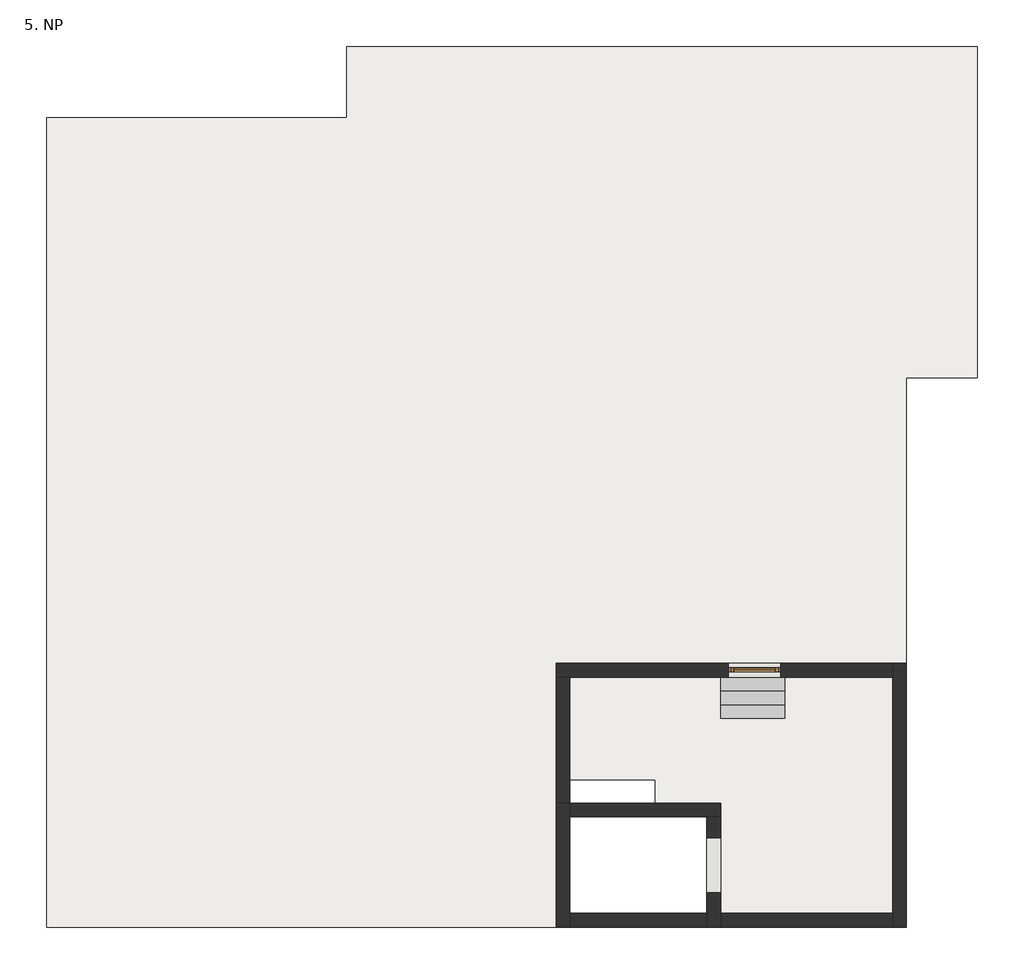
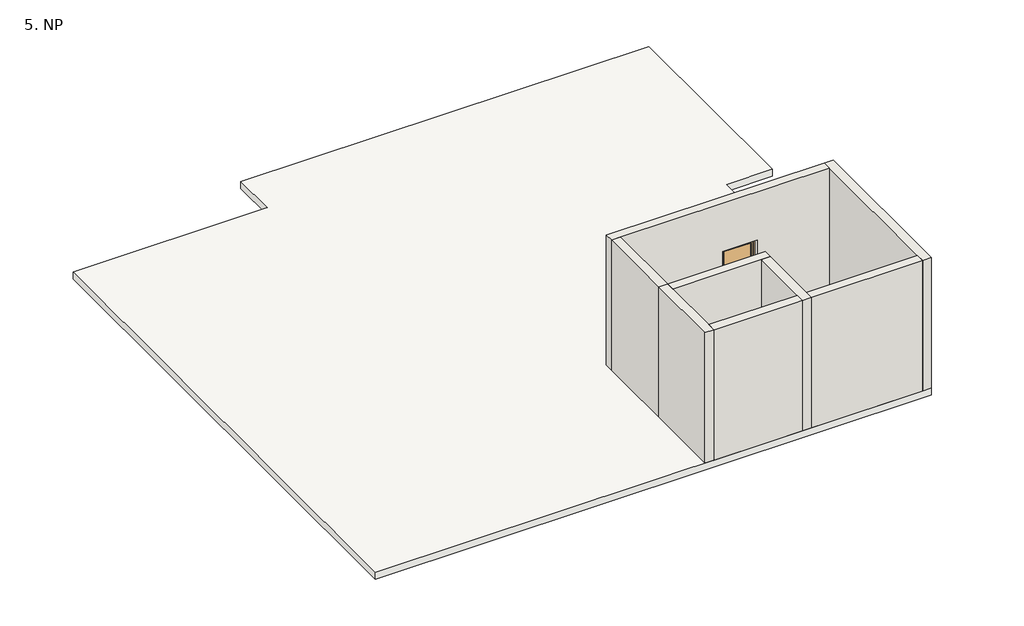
# One storey: 8 walls, 1 door, 1 proxy, 1 slab.
"""IFC4 building model written with IfcOpenShell, lengths in millimetres."""

from ifc_helpers import new_model, si_unit, frame, origin, place, context, project, spatial, polyline, outline, extrude, faceted_brep, transform, mapped, element, save
from components import generic_models_2aaaab1c, door_900_x_2100_mm_97e4d3d2

model = new_model("IFC4")

# Units and contexts
model_context = context("Model", 3, world=origin())
ifc_project = project(units=[si_unit("LENGTHUNIT", "METRE", prefix="MILLI")], contexts=[model_context])

# Site, building, storey
site = spatial("IfcSite", under=ifc_project)
building = spatial("IfcBuilding", under=site)
storey = spatial("IfcBuildingStorey", under=building, Name="5. NP", Elevation=16700.0)

# Proxy
placement = place(None, origin())
generic_models_shape = generic_models_2aaaab1c(model_context)
element("IfcBuildingElementProxy", 1, Name="R_Schodiště na střechu : R_Schodiště na střechu", ObjectType="R_Schodiště na střechu : R_Schodiště na střechu", at=placement, inside=storey, context=model_context, shape_type="MappedRepresentation", body=[
    mapped(generic_models_shape, transform((4772.0691438, -346.7473289, 16700.0), x_axis=(1.0, 0.0, 0.0), y_axis=(0.0, 1.0, 0.0), z_axis=(0.0, 0.0, 1.0))),
])

# Door
door_900_x_2100_mm_shape = door_900_x_2100_mm_97e4d3d2(model_context)
element("IfcDoor", 2, ObjectType="R_Dveře 1-kř rámové : 900 x 2100 mm", at=placement, inside=storey, context=model_context, shape_type="MappedRepresentation", body=[
    mapped(door_900_x_2100_mm_shape, transform((5512.0691438, -196.7473289, 17250.0), x_axis=(1.0, 0.0, 0.0), y_axis=(0.0, 1.0, 0.0), z_axis=(0.0, 0.0, 1.0))),
])

# Slab
element("IfcSlab", 3, ObjectType="Železobetnová stropní deska tl. 250 mm", at=placement, inside=storey, context=model_context, shape_type="Brep", body=[
    faceted_brep([(-9928.0998121, 11853.2526657, 16300.0), (-3378.0998121, 11853.2526657, 16300.0), (-3378.0998121, 13403.2526657, 16300.0), (10372.0691438, 13403.2526657, 16300.0), (10372.0691438, 6183.2526657, 16300.0), (8821.9001879, 6183.2526657, 16300.0), (8821.9001879, -5796.7473289, 16300.0), (-9928.0998121, -5796.7473289, 16300.0), (4471.9001879, -3396.7473289, 16300.0), (1481.9001879, -3396.7473289, 16300.0), (1481.9001879, -5496.7473289, 16300.0), (4471.9001879, -5496.7473289, 16300.0), (3332.0691438, -2596.7473289, 16300.0), (1482.0691438, -2596.7473289, 16300.0), (1482.0691438, -3096.7473289, 16300.0), (3332.0691438, -3096.7473289, 16300.0), (-9928.0998121, 11853.2526657, 16550.0), (-9928.0998121, -5796.7473289, 16550.0), (8522.0691438, -5796.7473289, 16550.0), (8821.9001879, -5796.7473289, 16550.0), (8821.9001879, 6183.2526657, 16550.0), (10372.0691438, 6183.2526657, 16550.0), (10372.0691438, 13403.2526657, 16550.0), (-3378.0998121, 13403.2526657, 16550.0), (-3378.0998121, 11853.2526657, 16550.0), (4471.9001879, -3396.7473289, 16550.0), (4471.9001879, -5496.7473289, 16550.0), (1481.9001879, -5496.7473289, 16550.0), (1481.9001879, -3396.7473289, 16550.0), (3332.0691438, -2596.7473289, 16550.0), (3332.0691438, -3096.7473289, 16550.0), (1482.0691438, -3096.7473289, 16550.0), (1482.0691438, -2596.7473289, 16550.0)], [[[0, 1, 2, 3, 4, 5, 6, 7], [8, 9, 10, 11], [12, 13, 14, 15]], [[16, 17, 18, 19, 20, 21, 22, 23, 24], [25, 26, 27, 28], [29, 30, 31, 32]], [[1, 0, 16, 24]], [[6, 5, 20, 19]], [[7, 6, 19, 18, 17]], [[0, 7, 17, 16]], [[2, 1, 24, 23]], [[3, 2, 23, 22]], [[4, 3, 22, 21]], [[5, 4, 21, 20]], [[9, 8, 25, 28]], [[10, 9, 28, 27]], [[11, 10, 27, 26]], [[8, 11, 26, 25]], [[13, 12, 29, 32]], [[14, 13, 32, 31]], [[15, 14, 31, 30]], [[12, 15, 30, 29]]]),
])

# Walls
element("IfcWall", 4, ObjectType="Železobetonové zdivo tl. 300 mm", at=placement, inside=storey, context=model_context, shape_type="Brep", body=[
    faceted_brep([(1482.0691438, -5796.7473289, 16550.0), (1482.0691438, -5496.7473289, 16550.0), (1482.0691438, -3396.7473289, 16550.0), (1482.0691438, -3096.7473289, 16550.0), (1482.0691438, -3096.7473289, 21200.0), (1482.0691438, -3396.7473289, 21200.0), (1482.0691438, -5496.7473289, 21200.0), (1482.0691438, -5796.7473289, 21200.0), (1182.0691438, -5796.7473289, 16550.0), (1182.0691438, -5796.7473289, 21200.0), (1182.0691438, -3096.7473289, 21200.0), (1182.0691438, -3096.7473289, 16550.0), (1182.0691438, -5496.7473289, 16550.0)], [[[0, 1, 2, 3, 4, 5, 6, 7]], [[8, 9, 10, 11, 12]], [[3, 2, 1, 0, 8, 12, 11]], [[0, 7, 9, 8]], [[7, 6, 5, 4, 10, 9]], [[3, 11, 10, 4]]]),
])
element("IfcWall", 5, ObjectType="Železobetonové zdivo tl. 300 mm", at=placement, inside=storey, context=model_context, shape_type="Brep", body=[
    faceted_brep([(1482.0691438, -3396.7473289, 16550.0), (4471.9001879, -3396.7473289, 16550.0), (4472.0691438, -3396.7473289, 16550.0), (4772.0691438, -3396.7473289, 16550.0), (4772.0691438, -3396.7473289, 21200.0), (4472.0691438, -3396.7473289, 21200.0), (1482.0691438, -3396.7473289, 21200.0), (1482.0691438, -3096.7473289, 16550.0), (1482.0691438, -3096.7473289, 21200.0), (4772.0691438, -3096.7473289, 21200.0), (4772.0691438, -3096.7473289, 16550.0), (3332.0691438, -3096.7473289, 16550.0)], [[[0, 1, 2, 3, 4, 5, 6]], [[7, 8, 9, 10, 11]], [[6, 5, 4, 9, 8]], [[4, 3, 10, 9]], [[3, 2, 1, 0, 7, 11, 10]], [[0, 6, 8, 7]]]),
])
element("IfcWall", 6, ObjectType="Nenosná stěna tl. 300 mm", at=placement, inside=storey, context=model_context, shape_type="Brep", body=[
    faceted_brep([(8822.0691438, -5796.7473289, 16550.0), (8822.0691438, -46.7473289, 16550.0), (8822.0691438, -46.7473289, 21200.0), (8822.0691438, -5796.7473289, 21200.0), (8522.0691438, -5796.7473289, 16550.0), (8522.0691438, -5796.7473289, 21200.0), (8522.0691438, -5496.7473289, 21200.0), (8522.0691438, -346.7473289, 21200.0), (8522.0691438, -46.7473289, 21200.0), (8522.0691438, -46.7473289, 16550.0), (8522.0691438, -346.7473289, 16550.0), (8522.0691438, -5496.7473289, 16550.0), (8821.9001879, -5796.7473289, 16550.0)], [[[0, 1, 2, 3]], [[4, 5, 6, 7, 8, 9, 10, 11]], [[1, 0, 12, 4, 11, 10, 9]], [[0, 3, 5, 4, 12]], [[3, 2, 8, 7, 6, 5]], [[2, 1, 9, 8]]]),
])
element("IfcWall", 7, ObjectType="Nenosná stěna tl. 300 mm", at=placement, inside=storey, context=model_context, shape_type="SweptSolid", body=[
    extrude(outline(polyline([(4772.0691438, -5496.7473289), (8522.0691438, -5496.7473289), (8522.0691438, -5796.7473289), (4772.0691438, -5796.7473289), (4772.0691438, -5496.7473289)])), frame((0.0, 0.0, 16550.0), z_axis=(0.0, 0.0, 1.0), x_axis=(1.0, 0.0, 0.0)), (0.0, 0.0, 1.0), 4650.0),
])
element("IfcWall", 8, ObjectType="Železobetonové zdivo tl. 300 mm", at=placement, inside=storey, context=model_context, shape_type="Brep", body=[
    faceted_brep([(4472.0691438, -3396.7473289, 16550.0), (4472.0691438, -5496.7473289, 16550.0), (4472.0691438, -5796.7473289, 16550.0), (4472.0691438, -5796.7473289, 21200.0), (4472.0691438, -5496.7473289, 21200.0), (4472.0691438, -3396.7473289, 21200.0), (4472.0691438, -5046.7473289, 16700.0), (4472.0691438, -3846.7473289, 16700.0), (4472.0691438, -3846.7473289, 18800.0), (4472.0691438, -5046.7473289, 18800.0), (4772.0691438, -3396.7473289, 16550.0), (4772.0691438, -3396.7473289, 21200.0), (4772.0691438, -5496.7473289, 21200.0), (4772.0691438, -5796.7473289, 21200.0), (4772.0691438, -5796.7473289, 16550.0), (4772.0691438, -5496.7473289, 16550.0), (4772.0691438, -5046.7473289, 16700.0), (4772.0691438, -5046.7473289, 18800.0), (4772.0691438, -3846.7473289, 18800.0), (4772.0691438, -3846.7473289, 16700.0)], [[[0, 1, 2, 3, 4, 5], [6, 7, 8, 9]], [[10, 11, 12, 13, 14, 15], [16, 17, 18, 19]], [[5, 4, 3, 13, 12, 11]], [[2, 1, 0, 10, 15, 14]], [[0, 5, 11, 10]], [[3, 2, 14, 13]], [[17, 16, 6, 9]], [[18, 17, 9, 8]], [[19, 18, 8, 7]], [[16, 19, 7, 6]]]),
])
element("IfcWall", 9, ObjectType="Železobetonové zdivo tl. 300 mm", at=placement, inside=storey, context=model_context, shape_type="Brep", body=[
    faceted_brep([(4472.0691438, -5496.7473289, 16550.0), (4471.9001879, -5496.7473289, 16550.0), (1482.0691438, -5496.7473289, 16550.0), (1482.0691438, -5496.7473289, 21200.0), (4472.0691438, -5496.7473289, 21200.0), (4472.0691438, -5796.7473289, 16550.0), (4472.0691438, -5796.7473289, 21200.0), (1482.0691438, -5796.7473289, 21200.0), (1482.0691438, -5796.7473289, 16550.0)], [[[0, 1, 2, 3, 4]], [[5, 6, 7, 8]], [[3, 2, 8, 7]], [[4, 3, 7, 6]], [[0, 4, 6, 5]], [[2, 1, 0, 5, 8]]]),
])
element("IfcWall", 10, ObjectType="Nenosná stěna tl. 300 mm", at=placement, inside=storey, context=model_context, shape_type="Brep", body=[
    faceted_brep([(1182.0691438, -346.7473289, 16550.0), (1482.0691438, -346.7473289, 16550.0), (8522.0691438, -346.7473289, 16550.0), (8522.0691438, -346.7473289, 21200.0), (1482.0691438, -346.7473289, 21200.0), (1182.0691438, -346.7473289, 21200.0), (6087.0691438, -346.7473289, 19475.0), (6087.0691438, -346.7473289, 17250.0), (4937.0691438, -346.7473289, 17250.0), (4937.0691438, -346.7473289, 19475.0), (8522.0691438, -46.7473289, 16550.0), (1182.0691438, -46.7473289, 16550.0), (1182.0691438, -46.7473289, 21200.0), (8522.0691438, -46.7473289, 21200.0), (6087.0691438, -46.7473289, 17250.0), (6087.0691438, -46.7473289, 19475.0), (4937.0691438, -46.7473289, 19475.0), (4937.0691438, -46.7473289, 17250.0)], [[[0, 1, 2, 3, 4, 5], [6, 7, 8, 9]], [[10, 11, 12, 13], [14, 15, 16, 17]], [[2, 1, 0, 11, 10]], [[14, 7, 6, 15]], [[15, 6, 9, 16]], [[16, 9, 8, 17]], [[7, 14, 17, 8]], [[5, 4, 3, 13, 12]], [[3, 2, 10, 13]], [[0, 5, 12, 11]]]),
])
element("IfcWall", 11, ObjectType="Nenosná stěna tl. 300 mm", at=placement, inside=storey, context=model_context, shape_type="SweptSolid", body=[
    extrude(outline(polyline([(1482.0691438, -346.7473289), (1482.0691438, -3096.7473289), (1182.0691438, -3096.7473289), (1182.0691438, -346.7473289), (1482.0691438, -346.7473289)])), frame((0.0, 0.0, 16550.0), z_axis=(0.0, 0.0, 1.0), x_axis=(1.0, 0.0, 0.0)), (0.0, 0.0, 1.0), 4650.0),
])

save(model, "model.ifc")
